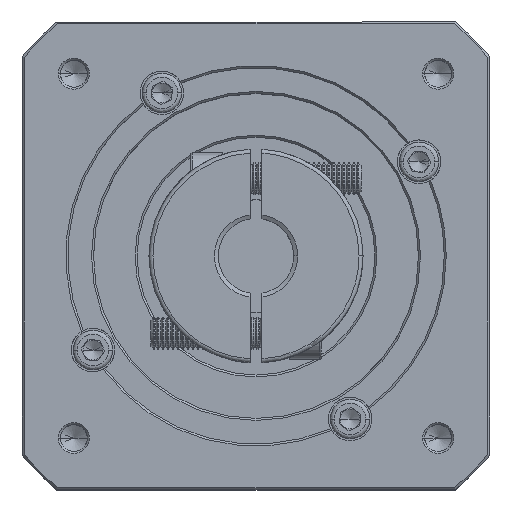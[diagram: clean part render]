
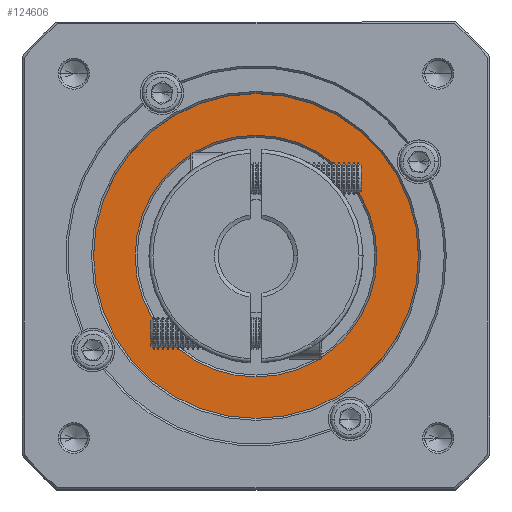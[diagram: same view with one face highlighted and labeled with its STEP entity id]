
A CAD part, top view. The second image highlights one B-rep face of the part: STEP entity #124606.
In plain terms, the highlighted planar face has unit normal (0, 0, 1).
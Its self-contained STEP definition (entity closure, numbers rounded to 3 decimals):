
#1223 = CARTESIAN_POINT ( 'NONE',  ( 45.534, 52.137, -34.026 ) ) ;
#2961 = DIRECTION ( 'NONE',  ( 0., 0., 1. ) ) ;
#4443 = CIRCLE ( 'NONE', #72543, 30.5 ) ;
#5663 = CIRCLE ( 'NONE', #13102, 41. ) ;
#13102 = AXIS2_PLACEMENT_3D ( 'NONE', #114340, #124672, #28105 ) ;
#13602 = DIRECTION ( 'NONE',  ( 0., 0., 1. ) ) ;
#24829 = EDGE_LOOP ( 'NONE', ( #42109, #137774 ) ) ;
#26434 = DIRECTION ( 'NONE',  ( 0., 0., -1. ) ) ;
#26913 = DIRECTION ( 'NONE',  ( 0., -1., 0. ) ) ;
#28105 = DIRECTION ( 'NONE',  ( 1., 0., 0. ) ) ;
#33478 = PLANE ( 'NONE',  #43568 ) ;
#37702 = AXIS2_PLACEMENT_3D ( 'NONE', #80605, #26434, #26913 ) ;
#42109 = ORIENTED_EDGE ( 'NONE', *, *, #52650, .T. ) ;
#43568 = AXIS2_PLACEMENT_3D ( 'NONE', #130960, #13602, #65978 ) ;
#47132 = CARTESIAN_POINT ( 'NONE',  ( 45.534, 82.637, -34.026 ) ) ;
#52650 = EDGE_CURVE ( 'NONE', #109509, #53236, #65253, .T. ) ;
#53236 = VERTEX_POINT ( 'NONE', #57474 ) ;
#55020 = EDGE_LOOP ( 'NONE', ( #111324, #79321 ) ) ;
#55283 = CARTESIAN_POINT ( 'NONE',  ( 86.534, 52.137, -34.026 ) ) ;
#57474 = CARTESIAN_POINT ( 'NONE',  ( 4.534, 52.137, -34.026 ) ) ;
#65253 = CIRCLE ( 'NONE', #88874, 41. ) ;
#65292 = FACE_OUTER_BOUND ( 'NONE', #24829, .T. ) ;
#65800 = DIRECTION ( 'NONE',  ( 0., -1., 0. ) ) ;
#65978 = DIRECTION ( 'NONE',  ( 1., 0., 0. ) ) ;
#67035 = FACE_BOUND ( 'NONE', #55020, .T. ) ;
#70210 = VERTEX_POINT ( 'NONE', #100722 ) ;
#72543 = AXIS2_PLACEMENT_3D ( 'NONE', #1223, #76150, #65800 ) ;
#76150 = DIRECTION ( 'NONE',  ( 0., 0., -1. ) ) ;
#79321 = ORIENTED_EDGE ( 'NONE', *, *, #106516, .T. ) ;
#80605 = CARTESIAN_POINT ( 'NONE',  ( 45.534, 52.137, -34.026 ) ) ;
#88001 = CIRCLE ( 'NONE', #37702, 30.5 ) ;
#88874 = AXIS2_PLACEMENT_3D ( 'NONE', #132541, #2961, #99037 ) ;
#93584 = EDGE_CURVE ( 'NONE', #53236, #109509, #5663, .T. ) ;
#98376 = EDGE_CURVE ( 'NONE', #70210, #125973, #4443, .T. ) ;
#99037 = DIRECTION ( 'NONE',  ( 1., 0., 0. ) ) ;
#100722 = CARTESIAN_POINT ( 'NONE',  ( 45.534, 21.637, -34.026 ) ) ;
#106516 = EDGE_CURVE ( 'NONE', #125973, #70210, #88001, .T. ) ;
#109509 = VERTEX_POINT ( 'NONE', #55283 ) ;
#111324 = ORIENTED_EDGE ( 'NONE', *, *, #98376, .T. ) ;
#114340 = CARTESIAN_POINT ( 'NONE',  ( 45.534, 52.137, -34.026 ) ) ;
#124606 = ADVANCED_FACE ( 'NONE', ( #65292, #67035 ), #33478, .T. ) ;
#124672 = DIRECTION ( 'NONE',  ( 0., 0., 1. ) ) ;
#125973 = VERTEX_POINT ( 'NONE', #47132 ) ;
#130960 = CARTESIAN_POINT ( 'NONE',  ( 45.534, 52.137, -34.026 ) ) ;
#132541 = CARTESIAN_POINT ( 'NONE',  ( 45.534, 52.137, -34.026 ) ) ;
#137774 = ORIENTED_EDGE ( 'NONE', *, *, #93584, .T. ) ;
